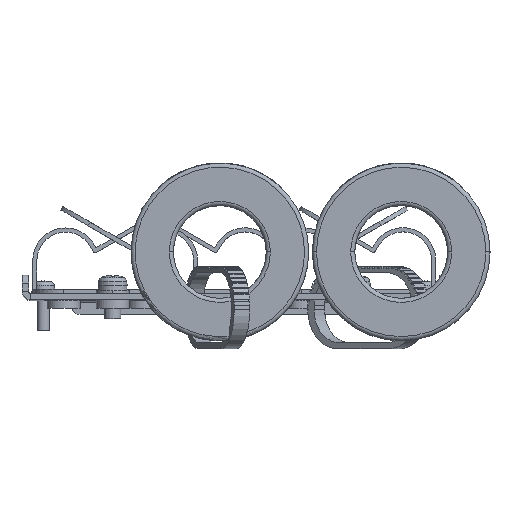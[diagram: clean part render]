
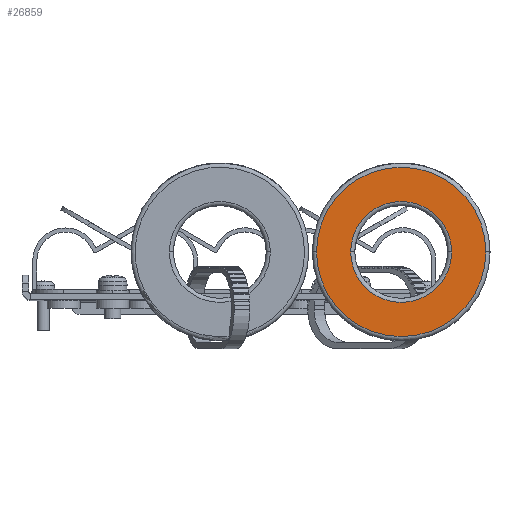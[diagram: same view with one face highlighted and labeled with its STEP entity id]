
A CAD part, top view. The second image highlights one B-rep face of the part: STEP entity #26859.
In plain terms, the highlighted planar face has unit normal (0, 0, 1).
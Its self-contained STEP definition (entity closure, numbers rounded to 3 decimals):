
#4868=CARTESIAN_POINT('',(92.,11.6,23.5));
#4869=DIRECTION('',(0.,0.,-1.));
#4870=DIRECTION('',(1.,0.,0.));
#4871=AXIS2_PLACEMENT_3D('',#4868,#4869,#4870);
#4873=CARTESIAN_POINT('',(92.,11.6,23.5));
#4874=DIRECTION('',(0.,0.,-1.));
#4875=DIRECTION('',(-1.,0.,0.));
#4876=AXIS2_PLACEMENT_3D('',#4873,#4874,#4875);
#4878=CARTESIAN_POINT('',(92.,11.6,23.5));
#4879=DIRECTION('',(0.,0.,1.));
#4880=DIRECTION('',(-1.,0.,0.));
#4881=AXIS2_PLACEMENT_3D('',#4878,#4879,#4880);
#4883=CARTESIAN_POINT('',(92.,11.6,23.5));
#4884=DIRECTION('',(0.,0.,1.));
#4885=DIRECTION('',(1.,0.,0.));
#4886=AXIS2_PLACEMENT_3D('',#4883,#4884,#4885);
#20517=CARTESIAN_POINT('',(71.45,11.6,23.5));
#20518=CARTESIAN_POINT('',(112.55,11.6,23.5));
#20519=VERTEX_POINT('',#20517);
#20520=VERTEX_POINT('',#20518);
#20521=CARTESIAN_POINT('',(79.75,11.6,23.5));
#20522=CARTESIAN_POINT('',(104.25,11.6,23.5));
#20523=VERTEX_POINT('',#20521);
#20524=VERTEX_POINT('',#20522);
#26843=CARTESIAN_POINT('',(92.,11.6,23.5));
#26844=DIRECTION('',(0.,0.,1.));
#26845=DIRECTION('',(1.,0.,0.));
#26846=AXIS2_PLACEMENT_3D('',#26843,#26844,#26845);
#26847=PLANE('',#26846);
#26849=ORIENTED_EDGE('',*,*,#26848,.T.);
#26851=ORIENTED_EDGE('',*,*,#26850,.T.);
#26852=EDGE_LOOP('',(#26849,#26851));
#26853=FACE_OUTER_BOUND('',#26852,.F.);
#26854=ORIENTED_EDGE('',*,*,#26833,.T.);
#26856=ORIENTED_EDGE('',*,*,#26855,.T.);
#26857=EDGE_LOOP('',(#26854,#26856));
#26858=FACE_BOUND('',#26857,.F.);
#26859=ADVANCED_FACE('',(#26853,#26858),#26847,.T.);
#4872=CIRCLE('',#4871,20.55);
#4877=CIRCLE('',#4876,20.55);
#4882=CIRCLE('',#4881,12.25);
#4887=CIRCLE('',#4886,12.25);
#26833=EDGE_CURVE('',#20523,#20524,#4882,.T.);
#26848=EDGE_CURVE('',#20520,#20519,#4872,.T.);
#26850=EDGE_CURVE('',#20519,#20520,#4877,.T.);
#26855=EDGE_CURVE('',#20524,#20523,#4887,.T.);
